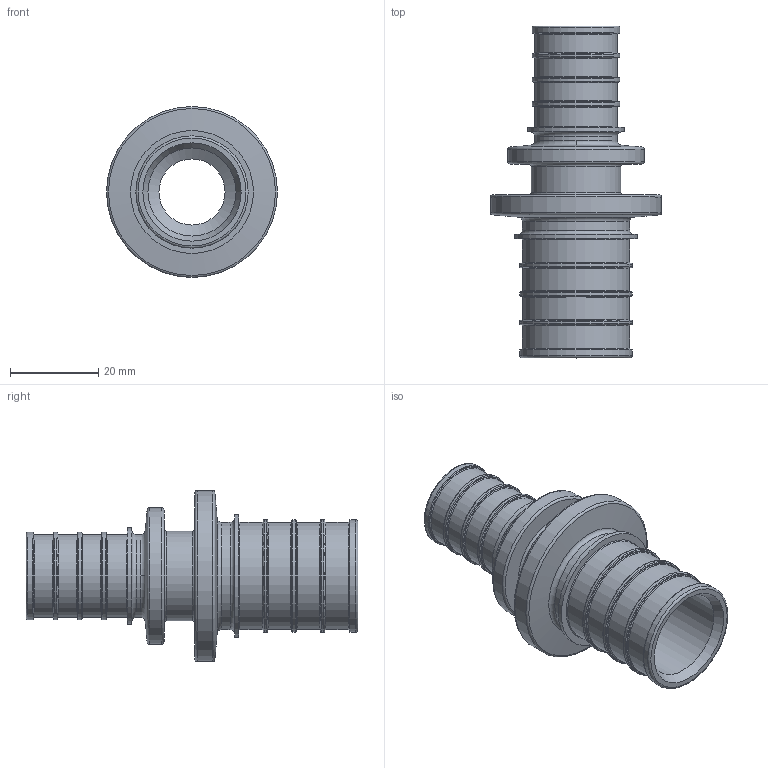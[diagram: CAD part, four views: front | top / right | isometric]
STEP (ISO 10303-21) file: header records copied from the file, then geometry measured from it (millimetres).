
FILE_DESCRIPTION(('STEP AP203'), '1');
FILE_NAME('ÂÐ.714651.015 - VTm.403.G.003225 Ôèò. íàäâ. ïð', '2024-01-23T11:07:07', ('User'), ('Vesta'), 'C3D Converter', 'C3D Toolkit', '');
FILE_SCHEMA(('CONFIG_CONTROL_DESIGN'));
Length unit declared in the file: millimetre
Products named in the file (1): ВР.714651.015
Bounding box: 38.8 x 75.3 x 38.8 mm (x, y, z)
Volume: 15980.6 mm3; surface area: 12942 mm2
Topology: 1 solids, 1 shells, 95 faces, 169 edges, 96 vertices
Faces by surface type: torus 43, cylinder 25, plane 22, cone 5
Full cylindrical faces by diameter (mm): 15 x1, 18.8 x5, 19.8 x4, 20 x1, 20.4 x1, 21.8 x1, 24.3 x5, 25.5 x4, 27.9 x1, 30.9 x1, 38.8 x1
Entity records: 1961 total; most frequent: DIRECTION 388, CARTESIAN_POINT 290, ORIENTED_EDGE 196, AXIS2_PLACEMENT_3D 194, EDGE_LOOP 188, FACE_OUTER_BOUND 140, EDGE_CURVE 98, CIRCLE 98
